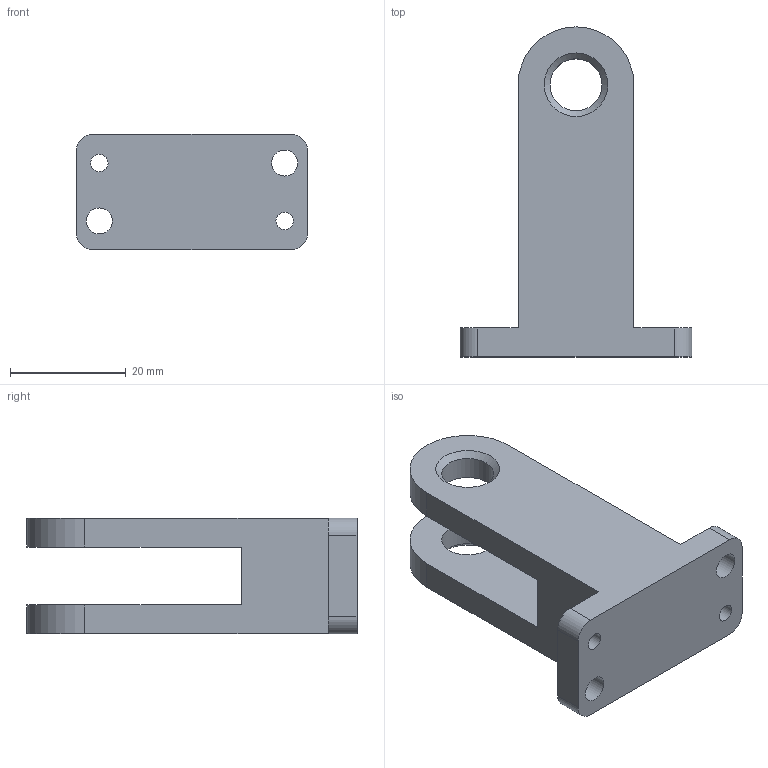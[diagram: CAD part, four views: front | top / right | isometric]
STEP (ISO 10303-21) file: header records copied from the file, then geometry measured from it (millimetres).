
FILE_DESCRIPTION(/* description */ (''),/* implementation_level */ '2;1');
FILE_NAME(/* name */ '',/* time_stamp */ '2024-04-08T11:14:12+09:00',/* author */ ('jhkim'),/* organization */ (''),/* preprocessor_version */ 'ST-DEVELOPER v20',/* originating_system */ 'Autodesk Inventor 2025',/* authorisation */ '');
FILE_SCHEMA (('AUTOMOTIVE_DESIGN { 1 0 10303 214 3 1 1 }'));
Length unit declared in the file: millimetre
Products named in the file (1): 힌지
Bounding box: 40 x 57 x 20 mm (x, y, z)
Volume: 16035.9 mm3; surface area: 6942.8 mm2
Topology: 1 solids, 1 shells, 26 faces, 70 edges, 46 vertices
Faces by surface type: cylinder 12, plane 12, cone 2
Full cylindrical faces by diameter (mm): 3 x2, 4.5 x2, 9 x2
Entity records: 891 total; most frequent: DIRECTION 150, CARTESIAN_POINT 143, ORIENTED_EDGE 140, EDGE_CURVE 70, AXIS2_PLACEMENT_3D 53, VERTEX_POINT 46, LINE 44, VECTOR 44
